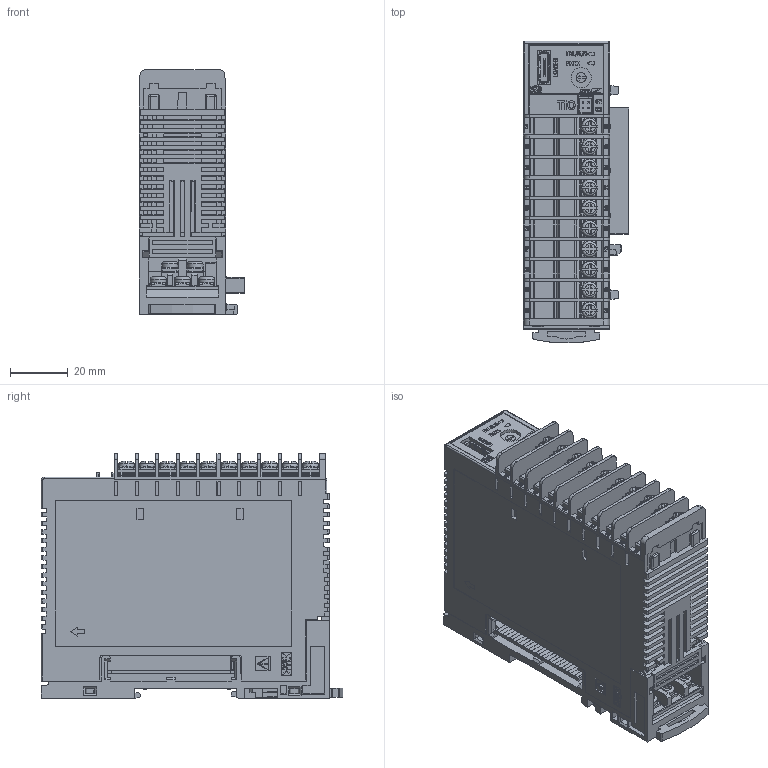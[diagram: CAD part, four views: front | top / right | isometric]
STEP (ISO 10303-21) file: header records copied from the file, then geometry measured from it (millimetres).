
FILE_DESCRIPTION (( 'STEP AP203' ), '1' );
FILE_NAME ('SRZ(Z-TIO-BT-CT—L)_WEB.STEP', '2020-03-27T00:23:40', ( '' ), ( '' ), 'SwSTEP 2.0', 'SolidWorks 2018', '' );
FILE_SCHEMA (( 'CONFIG_CONTROL_DESIGN' ));
Products named in the file (3): SRZ(Z-TIO-BT-CT有)_WEB; KSRZ-54(1)_WEB_デフォルト; SRZ（基本設計-端子BT_CT有)_WEB
Assembly tree (2 placements, depth 2):
  SRZ(Z-TIO-BT-CT有)_WEB
    SRZ（基本設計-端子BT_CT有)_WEB
    KSRZ-54(1)_WEB_デフォルト
Bounding box: 36.65 x 104.76 x 85 mm (x, y, z)
Volume: 179250.6 mm3; surface area: 57117.4 mm2
Topology: 3 solids, 6 shells, 5127 faces, 13901 edges, 9001 vertices
Faces by surface type: plane 3470, bspline 909, cylinder 636, sphere 68, torus 36, cone 8
Entity records: 186173 total; most frequent: CARTESIAN_POINT 62904, ORIENTED_EDGE 27650, DIRECTION 21630, EDGE_CURVE 13825, VECTOR 10456, LINE 10456, VERTEX_POINT 8993, AXIS2_PLACEMENT_3D 5587
